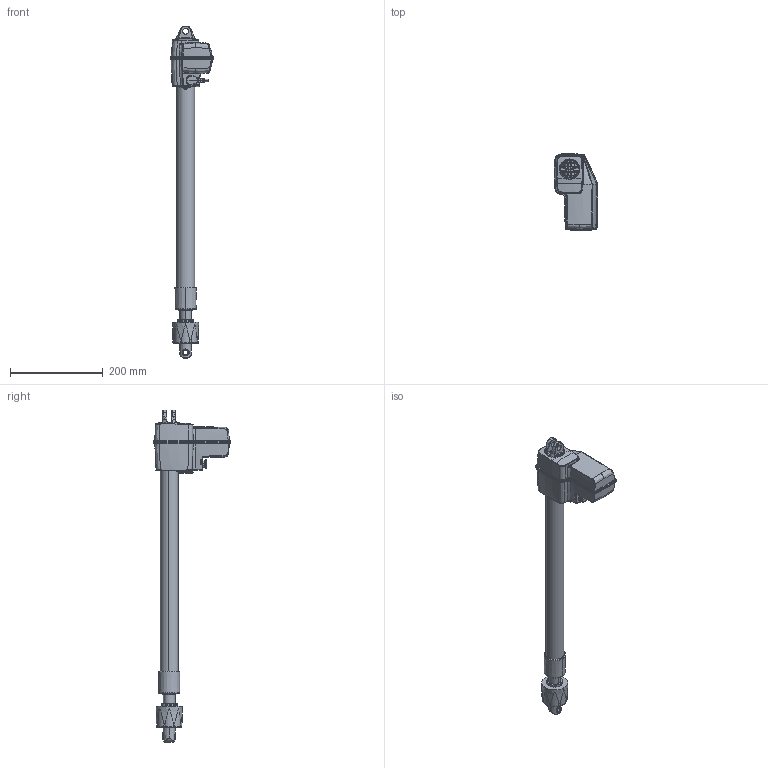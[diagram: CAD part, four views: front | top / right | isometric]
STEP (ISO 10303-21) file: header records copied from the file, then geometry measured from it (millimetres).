
FILE_DESCRIPTION((''),'2;1');
FILE_NAME('0404023_ASM','2021-01-25T08:25:21',('ti'),(''),'CREO PARAMETRIC BY PTC INC, 2019344','CREO PARAMETRIC BY PTC INC, 2019344','');
FILE_SCHEMA(('AUTOMOTIVE_DESIGN { 1 0 10303 214 1 1 1 1 }'));
Products named in the file (9): 0404023-0401078-0401079; SHELL-0273018; 0273044; 0404023-0401030; 0404023-0408053; 0431139; 0404032; 0404023-0401138; 0404023_ASM
Assembly tree (9 placements, depth 2):
  0404023_ASM
    0404023-0401078-0401079
    SHELL-0273018
    0273044
    0404023-0401030
    0404023-0408053
    0431139  x2
    0404032
    0404023-0401138
Bounding box: 94.31 x 165.37 x 717.5 mm (x, y, z)
Volume: 2005300.9 mm3; surface area: 222814.4 mm2
Topology: 9 solids, 10 shells, 1867 faces, 4606 edges, 2775 vertices
Faces by surface type: cylinder 487, torus 401, bspline 397, plane 335, cone 124, extrusion 73, sphere 48, revolution 2
Entity records: 85409 total; most frequent: CARTESIAN_POINT 36008, ORIENTED_EDGE 9120, DIRECTION 7837, EDGE_CURVE 4560, AXIS2_PLACEMENT_3D 3240, VERTEX_POINT 2759, PRESENTATION_STYLE_ASSIGNMENT 2390, STYLED_ITEM 2230
